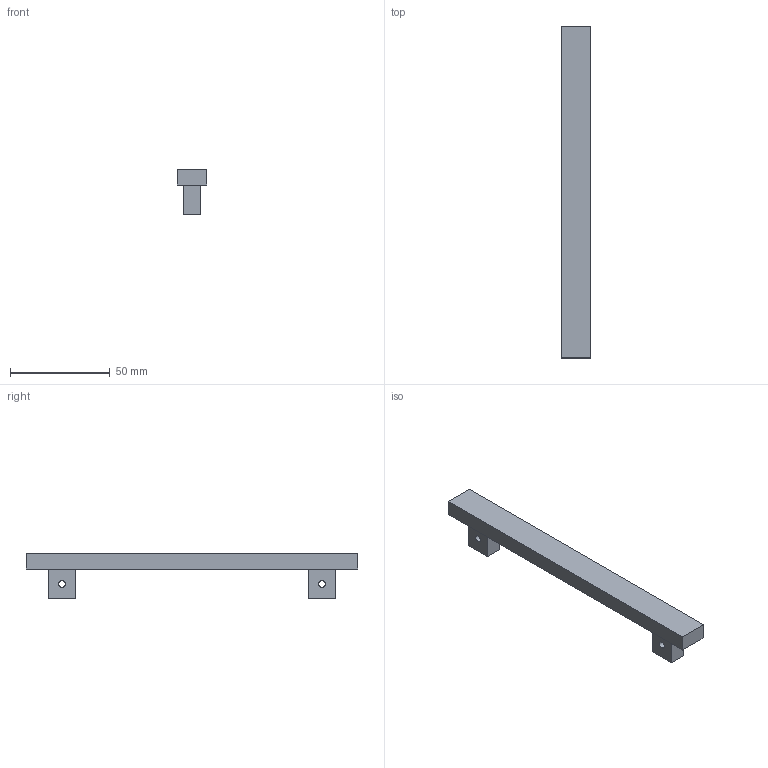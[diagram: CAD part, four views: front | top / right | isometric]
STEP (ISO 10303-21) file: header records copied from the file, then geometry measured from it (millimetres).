
FILE_DESCRIPTION(('Open CASCADE Model'),'2;1');
FILE_NAME('F09-XBAR','2026-11-15T22:32:12',('Author'),('Open CASCADE'), 'Open CASCADE STEP processor 8.0','build123d','Unknown');
FILE_SCHEMA(('AUTOMOTIVE_DESIGN { 1 0 10303 214 1 1 1 1 }'));
Length unit declared in the file: millimetre
Products named in the file (1): F09-XBAR
Bounding box: 15 x 166 x 23 mm (x, y, z)
Volume: 23272.6 mm3; surface area: 9355.4 mm2
Topology: 1 solids, 1 shells, 18 faces, 42 edges, 28 vertices
Faces by surface type: plane 16, cylinder 2
Full cylindrical faces by diameter (mm): 3.4 x2
Entity records: 1074 total; most frequent: CARTESIAN_POINT 173, DIRECTION 168, LINE 118, VECTOR 118, ORIENTED_EDGE 84, PCURVE 84, DEFINITIONAL_REPRESENTATION 84, EDGE_CURVE 42
